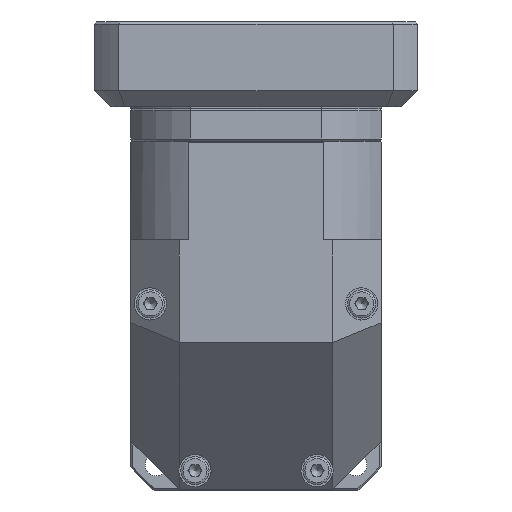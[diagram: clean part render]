
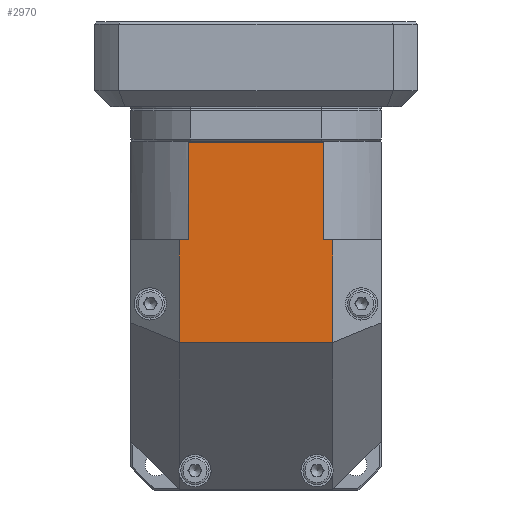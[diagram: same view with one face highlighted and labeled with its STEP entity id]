
A CAD part, front view. The second image highlights one B-rep face of the part: STEP entity #2970.
In plain terms, the highlighted planar face has unit normal (0, -1, 0).
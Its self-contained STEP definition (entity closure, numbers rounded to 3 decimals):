
#2899=CARTESIAN_POINT('',(-31.0,-31.0,55.5));
#2900=DIRECTION('',(0.0,-1.0,0.0));
#2901=DIRECTION('',(0.0,0.0,-1.0));
#2902=AXIS2_PLACEMENT_3D('',#2899,#2900,#2901);
#2903=PLANE('',#2902);
#2904=CARTESIAN_POINT('',(19.,-31.,5.5));
#2905=VERTEX_POINT('',#2904);
#2906=CARTESIAN_POINT('',(19.,-31.0,31.));
#2907=VERTEX_POINT('',#2906);
#2908=CARTESIAN_POINT('',(19.,-31.0,5.5));
#2909=DIRECTION('',(0.0,0.0,1.0));
#2910=VECTOR('',#2909,25.5);
#2911=LINE('',#2908,#2910);
#2912=EDGE_CURVE('',#2905,#2907,#2911,.T.);
#2913=ORIENTED_EDGE('',*,*,#2912,.T.);
#2914=CARTESIAN_POINT('',(16.78,-31.0,31.));
#2915=VERTEX_POINT('',#2914);
#2916=CARTESIAN_POINT('',(19.,-31.0,31.));
#2917=DIRECTION('',(-1.0,0.0,0.0));
#2918=VECTOR('',#2917,2.22);
#2919=LINE('',#2916,#2918);
#2920=EDGE_CURVE('',#2907,#2915,#2919,.T.);
#2921=ORIENTED_EDGE('',*,*,#2920,.T.);
#2922=CARTESIAN_POINT('',(16.78,-31.0,55.2));
#2923=VERTEX_POINT('',#2922);
#2924=CARTESIAN_POINT('',(16.78,-31.0,31.));
#2925=DIRECTION('',(0.0,0.0,1.0));
#2926=VECTOR('',#2925,24.2);
#2927=LINE('',#2924,#2926);
#2928=EDGE_CURVE('',#2915,#2923,#2927,.T.);
#2929=ORIENTED_EDGE('',*,*,#2928,.T.);
#2930=CARTESIAN_POINT('',(-16.78,-31.0,55.2));
#2931=VERTEX_POINT('',#2930);
#2932=CARTESIAN_POINT('',(16.78,-31.0,55.2));
#2933=DIRECTION('',(-1.0,0.0,0.0));
#2934=VECTOR('',#2933,33.56);
#2935=LINE('',#2932,#2934);
#2936=EDGE_CURVE('',#2923,#2931,#2935,.T.);
#2937=ORIENTED_EDGE('',*,*,#2936,.T.);
#2938=CARTESIAN_POINT('',(-16.78,-31.0,31.));
#2939=VERTEX_POINT('',#2938);
#2940=CARTESIAN_POINT('',(-16.78,-31.0,55.2));
#2941=DIRECTION('',(0.0,0.0,-1.0));
#2942=VECTOR('',#2941,24.2);
#2943=LINE('',#2940,#2942);
#2944=EDGE_CURVE('',#2931,#2939,#2943,.T.);
#2945=ORIENTED_EDGE('',*,*,#2944,.T.);
#2946=CARTESIAN_POINT('',(-19.,-31.0,31.));
#2947=VERTEX_POINT('',#2946);
#2948=CARTESIAN_POINT('',(-16.78,-31.0,31.));
#2949=DIRECTION('',(-1.0,0.0,0.0));
#2950=VECTOR('',#2949,2.22);
#2951=LINE('',#2948,#2950);
#2952=EDGE_CURVE('',#2939,#2947,#2951,.T.);
#2953=ORIENTED_EDGE('',*,*,#2952,.T.);
#2954=CARTESIAN_POINT('',(-19.,-31.,5.5));
#2955=VERTEX_POINT('',#2954);
#2956=CARTESIAN_POINT('',(-19.,-31.0,31.));
#2957=DIRECTION('',(0.0,0.0,-1.0));
#2958=VECTOR('',#2957,25.5);
#2959=LINE('',#2956,#2958);
#2960=EDGE_CURVE('',#2947,#2955,#2959,.T.);
#2961=ORIENTED_EDGE('',*,*,#2960,.T.);
#2962=CARTESIAN_POINT('',(19.,-31.,5.5));
#2963=DIRECTION('',(-1.0,0.0,0.0));
#2964=VECTOR('',#2963,38.);
#2965=LINE('',#2962,#2964);
#2966=EDGE_CURVE('',#2905,#2955,#2965,.T.);
#2967=ORIENTED_EDGE('',*,*,#2966,.F.);
#2968=EDGE_LOOP('',(#2913,#2921,#2929,#2937,#2945,#2953,#2961,#2967));
#2969=FACE_OUTER_BOUND('',#2968,.T.);
#2970=ADVANCED_FACE('',(#2969),#2903,.T.);
